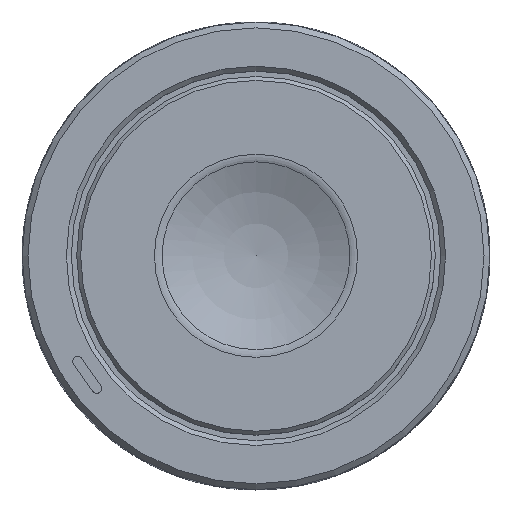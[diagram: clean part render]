
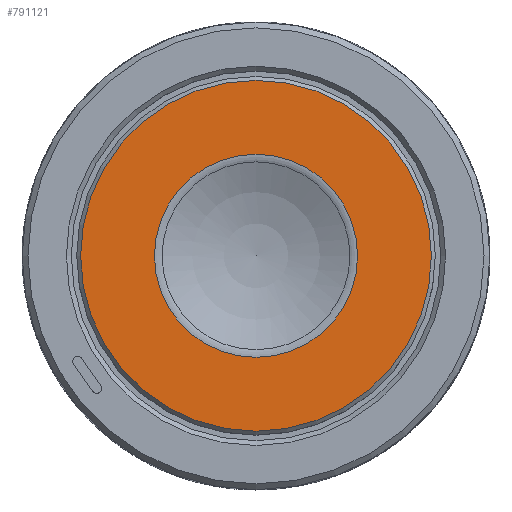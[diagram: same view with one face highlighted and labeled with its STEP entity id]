
A CAD part, top view. The second image highlights one B-rep face of the part: STEP entity #791121.
In plain terms, the highlighted planar face has unit normal (0, 0, 1).
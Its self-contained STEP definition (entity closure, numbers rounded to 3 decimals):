
#791053 = TOROIDAL_SURFACE('',#791054,5.212,0.9);
#791054 = AXIS2_PLACEMENT_3D('',#791055,#791056,#791057);
#791055 = CARTESIAN_POINT('',(0.,0.,9.51));
#791056 = DIRECTION('',(-0.,-0.,-1.));
#791057 = DIRECTION('',(1.,0.,-0.));
#791071 = VERTEX_POINT('',#791072);
#791072 = CARTESIAN_POINT('',(5.212,0.,10.41));
#791094 = EDGE_CURVE('',#791071,#791071,#791095,.T.);
#791095 = SURFACE_CURVE('',#791096,(#791101,#791108),.PCURVE_S1.);
#791096 = CIRCLE('',#791097,5.212);
#791097 = AXIS2_PLACEMENT_3D('',#791098,#791099,#791100);
#791098 = CARTESIAN_POINT('',(0.,0.,10.41));
#791099 = DIRECTION('',(0.,0.,1.));
#791100 = DIRECTION('',(1.,0.,-0.));
#791101 = PCURVE('',#791053,#791102);
#791102 = DEFINITIONAL_REPRESENTATION('',(#791103),#791107);
#791103 = LINE('',#791104,#791105);
#791104 = CARTESIAN_POINT('',(-0.,4.712));
#791105 = VECTOR('',#791106,1.);
#791106 = DIRECTION('',(-1.,0.));
#791107 = ( GEOMETRIC_REPRESENTATION_CONTEXT(2) 
PARAMETRIC_REPRESENTATION_CONTEXT() REPRESENTATION_CONTEXT('2D SPACE',''
  ) );
#791108 = PCURVE('',#791109,#791114);
#791109 = PLANE('',#791110);
#791110 = AXIS2_PLACEMENT_3D('',#791111,#791112,#791113);
#791111 = CARTESIAN_POINT('',(0.,0.,10.41));
#791112 = DIRECTION('',(0.,0.,1.));
#791113 = DIRECTION('',(1.,0.,-0.));
#791114 = DEFINITIONAL_REPRESENTATION('',(#791115),#791119);
#791115 = CIRCLE('',#791116,5.212);
#791116 = AXIS2_PLACEMENT_2D('',#791117,#791118);
#791117 = CARTESIAN_POINT('',(0.,0.));
#791118 = DIRECTION('',(1.,-0.));
#791119 = ( GEOMETRIC_REPRESENTATION_CONTEXT(2) 
PARAMETRIC_REPRESENTATION_CONTEXT() REPRESENTATION_CONTEXT('2D SPACE',''
  ) );
#791121 = ADVANCED_FACE('',(#791122,#791125),#791109,.T.);
#791122 = FACE_BOUND('',#791123,.F.);
#791123 = EDGE_LOOP('',(#791124));
#791124 = ORIENTED_EDGE('',*,*,#791094,.T.);
#791125 = FACE_BOUND('',#791126,.F.);
#791126 = EDGE_LOOP('',(#791127));
#791127 = ORIENTED_EDGE('',*,*,#791128,.F.);
#791128 = EDGE_CURVE('',#791129,#791129,#791131,.T.);
#791129 = VERTEX_POINT('',#791130);
#791130 = CARTESIAN_POINT('',(9.,0.,10.41));
#791131 = SURFACE_CURVE('',#791132,(#791137,#791144),.PCURVE_S1.);
#791132 = CIRCLE('',#791133,9.);
#791133 = AXIS2_PLACEMENT_3D('',#791134,#791135,#791136);
#791134 = CARTESIAN_POINT('',(0.,0.,10.41));
#791135 = DIRECTION('',(0.,0.,1.));
#791136 = DIRECTION('',(1.,0.,-0.));
#791137 = PCURVE('',#791109,#791138);
#791138 = DEFINITIONAL_REPRESENTATION('',(#791139),#791143);
#791139 = CIRCLE('',#791140,9.);
#791140 = AXIS2_PLACEMENT_2D('',#791141,#791142);
#791141 = CARTESIAN_POINT('',(0.,0.));
#791142 = DIRECTION('',(1.,-0.));
#791143 = ( GEOMETRIC_REPRESENTATION_CONTEXT(2) 
PARAMETRIC_REPRESENTATION_CONTEXT() REPRESENTATION_CONTEXT('2D SPACE',''
  ) );
#791144 = PCURVE('',#791145,#791150);
#791145 = CONICAL_SURFACE('',#791146,9.,0.785);
#791146 = AXIS2_PLACEMENT_3D('',#791147,#791148,#791149);
#791147 = CARTESIAN_POINT('',(0.,0.,10.41));
#791148 = DIRECTION('',(-0.,-0.,-1.));
#791149 = DIRECTION('',(1.,0.,0.));
#791150 = DEFINITIONAL_REPRESENTATION('',(#791151),#791155);
#791151 = LINE('',#791152,#791153);
#791152 = CARTESIAN_POINT('',(-0.,0.));
#791153 = VECTOR('',#791154,1.);
#791154 = DIRECTION('',(-1.,0.));
#791155 = ( GEOMETRIC_REPRESENTATION_CONTEXT(2) 
PARAMETRIC_REPRESENTATION_CONTEXT() REPRESENTATION_CONTEXT('2D SPACE',''
  ) );
